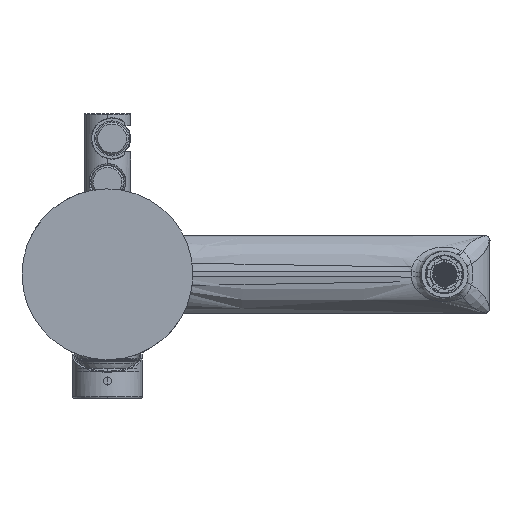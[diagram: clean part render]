
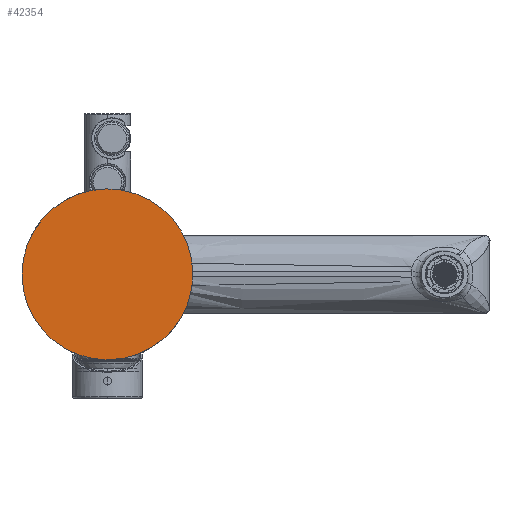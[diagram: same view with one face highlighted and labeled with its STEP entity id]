
A CAD part, front view. The second image highlights one B-rep face of the part: STEP entity #42354.
In plain terms, the highlighted planar face has unit normal (0, -1, 0).
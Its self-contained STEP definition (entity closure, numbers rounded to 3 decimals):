
#2430 = DIRECTION ( 'NONE',  ( 0., -1., 0. ) ) ;
#4013 = EDGE_LOOP ( 'NONE', ( #89665, #79290 ) ) ;
#6964 = PLANE ( 'NONE',  #11017 ) ;
#11017 = AXIS2_PLACEMENT_3D ( 'NONE', #61187, #45741, #13871 ) ;
#11150 = AXIS2_PLACEMENT_3D ( 'NONE', #49712, #2430, #55184 ) ;
#13871 = DIRECTION ( 'NONE',  ( 1., 0., 0.008 ) ) ;
#15852 = CIRCLE ( 'NONE', #11150, 55. ) ;
#21235 = AXIS2_PLACEMENT_3D ( 'NONE', #71860, #94728, #26470 ) ;
#26470 = DIRECTION ( 'NONE',  ( -1., 0., -0.008 ) ) ;
#42354 = ADVANCED_FACE ( 'NONE', ( #90597 ), #6964, .F. ) ;
#44452 = EDGE_CURVE ( 'NONE', #74331, #98137, #15852, .T. ) ;
#45741 = DIRECTION ( 'NONE',  ( 0., 1., 0. ) ) ;
#49712 = CARTESIAN_POINT ( 'NONE',  ( -320.452, -747.728, 9.991 ) ) ;
#55184 = DIRECTION ( 'NONE',  ( -1., 0., -0.008 ) ) ;
#57059 = CARTESIAN_POINT ( 'NONE',  ( -375.45, -747.728, 9.525 ) ) ;
#61187 = CARTESIAN_POINT ( 'NONE',  ( -320.91, -747.728, 63.989 ) ) ;
#64335 = CARTESIAN_POINT ( 'NONE',  ( -265.454, -747.728, 10.458 ) ) ;
#71860 = CARTESIAN_POINT ( 'NONE',  ( -320.452, -747.728, 9.991 ) ) ;
#74331 = VERTEX_POINT ( 'NONE', #57059 ) ;
#79290 = ORIENTED_EDGE ( 'NONE', *, *, #98200, .T. ) ;
#89665 = ORIENTED_EDGE ( 'NONE', *, *, #44452, .T. ) ;
#90597 = FACE_OUTER_BOUND ( 'NONE', #4013, .T. ) ;
#94421 = CIRCLE ( 'NONE', #21235, 55. ) ;
#94728 = DIRECTION ( 'NONE',  ( 0., -1., 0. ) ) ;
#98137 = VERTEX_POINT ( 'NONE', #64335 ) ;
#98200 = EDGE_CURVE ( 'NONE', #98137, #74331, #94421, .T. ) ;
